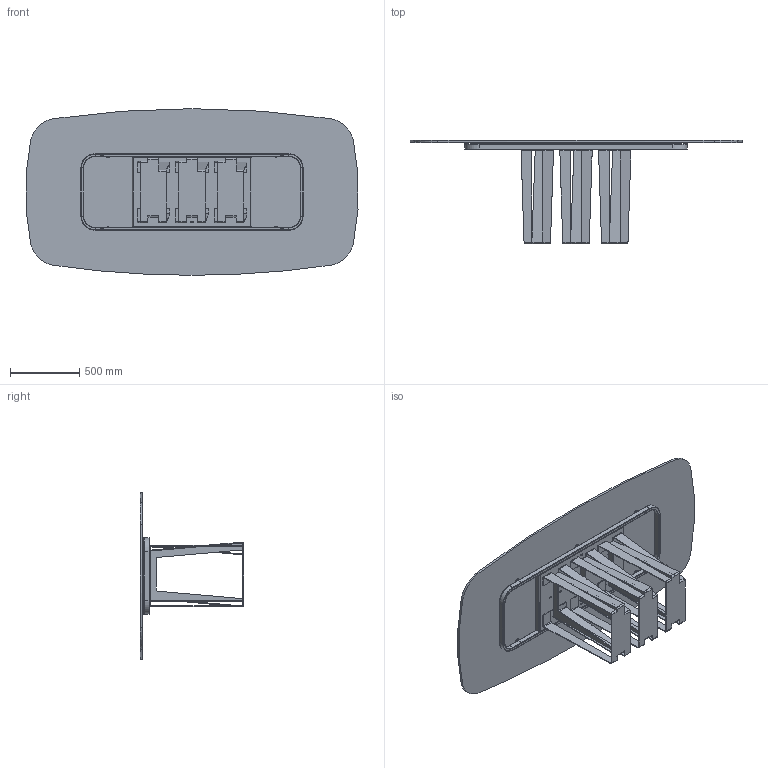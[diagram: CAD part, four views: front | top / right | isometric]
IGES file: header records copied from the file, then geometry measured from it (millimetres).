
Start section: SolidWorks IGES file using analytic representation for surfaces
Global section: file name: Y:\eforma\TECNICO\SOLIDWORKS\E-FORMA\1-TAVOLI\NARCISO\02 parts\NA43G.IGS; native system: SolidWorks 2022; preprocessor: SolidWorks 2022; author: eforma.tech; date: 240807.163817; units: millimetre
Bounding box: 2391.62 x 745 x 1200 mm (x, y, z)
Volume: 51423391.3 mm3; surface area: 10319572.8 mm2
Topology: 34 solids, 34 shells, 1016 faces, 2470 edges, 1516 vertices
Faces by surface type: plane 545, revolution 435, bspline 36
